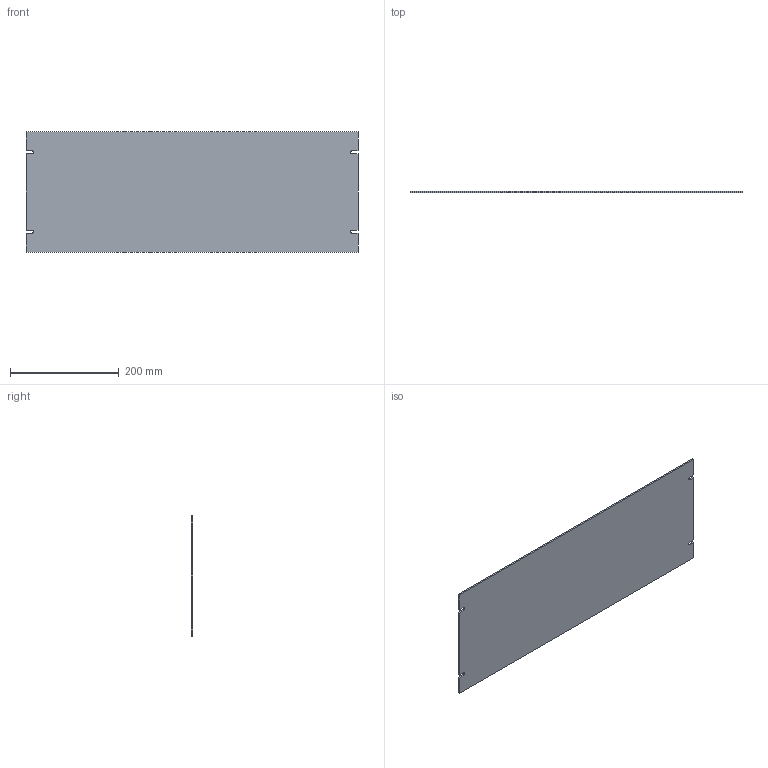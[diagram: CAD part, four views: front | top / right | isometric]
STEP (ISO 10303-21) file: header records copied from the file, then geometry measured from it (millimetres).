
FILE_DESCRIPTION( ( 'Unknown' ), '1' );
FILE_NAME( 'Q:/ACCESSORIES/PANELS/WEB DRAWINGS/STEP/PBPA24008.stp', 'Unknown', ( 'Unknown' ), ( 'Unknown' ), 'XStep 1.0', 'Unknown', ' ' );
FILE_SCHEMA( ( 'CONFIG_CONTROL_DESIGN' ) );
Length unit declared in the file: millimetre
Products named in the file (1): 1
Bounding box: 609.6 x 3.17 x 221.44 mm (x, y, z)
Volume: 427554 mm3; surface area: 274910.6 mm2
Topology: 1 solids, 1 shells, 22 faces, 60 edges, 40 vertices
Faces by surface type: plane 18, cylinder 4
Entity records: 736 total; most frequent: CARTESIAN_POINT 123, ORIENTED_EDGE 120, DIRECTION 114, EDGE_CURVE 60, LINE 52, VECTOR 52, VERTEX_POINT 40, AXIS2_PLACEMENT_3D 31
